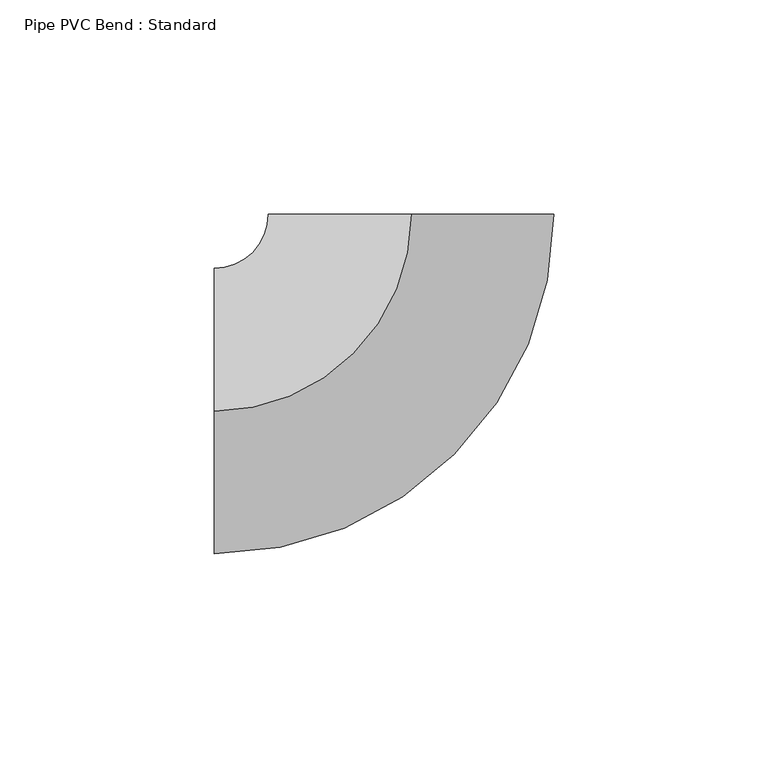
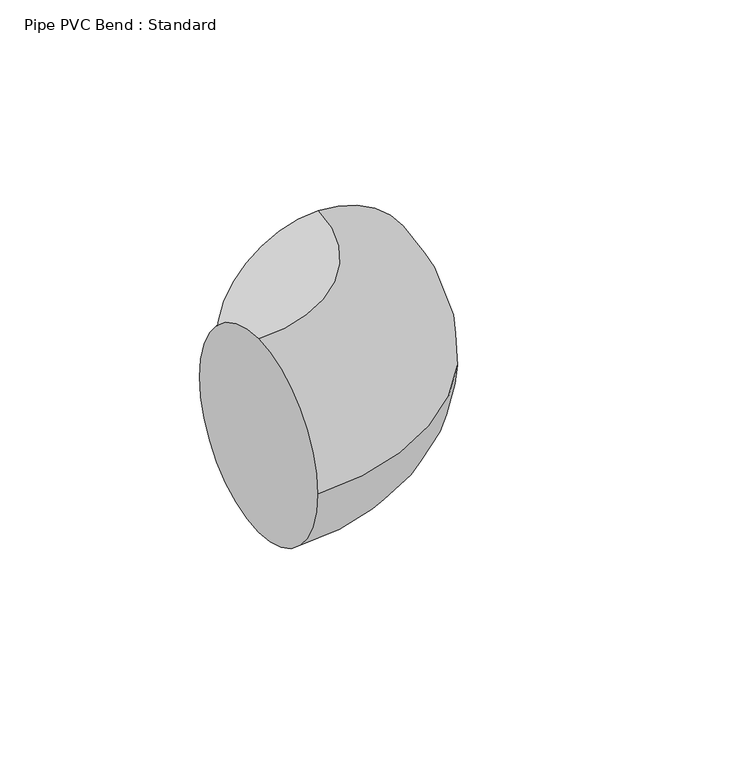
"""IFC4 building model written with IfcOpenShell, lengths in millimetres: pipe fitting geometry, Pipe PVC Bend : Standard."""

import ifcopenshell
import ifcopenshell.guid

model = None  # the IFC model being written
_history = None  # IfcOwnerHistory: only IFC2X3 demands one
_inside = {}  # id of a spatial element -> (the spatial element, [elements in it])
_under = {}  # id of a project, library or spatial element -> (it, [spatial elements below it])
_declared = {}  # id of a project -> (the project, [libraries it declares])
_typed = {}  # id of a type object -> (the type object, [elements of that type])
_made_of = {}  # id of a material, layer set ... -> (it, [elements and type objects made of it])


def new_model(schema):
    """Start an empty IFC model of exactly this schema.

    Asked for "IFC4X3", IfcOpenShell would pick the latest addendum, in which some entities
    have other attributes; the version numbers below select the first issue.
    IFC2X3 requires an IfcOwnerHistory on every rooted entity: one is made here for all.
    """
    global model, _history
    if schema == "IFC4X3":
        model = ifcopenshell.file(schema_version=(4, 3, 0, 0))
    else:
        model = ifcopenshell.file(schema=schema)
    _inside.clear()
    _under.clear()
    _declared.clear()
    _typed.clear()
    _made_of.clear()
    _history = None
    if model.schema == "IFC2X3":
        org = make("IfcOrganization", Name="unknown")
        user = make(
            "IfcPersonAndOrganization",
            ThePerson=make("IfcPerson", FamilyName="unknown"),
            TheOrganization=org,
        )
        app = make(
            "IfcApplication",
            ApplicationDeveloper=org,
            Version="unknown",
            ApplicationFullName="unknown",
            ApplicationIdentifier="unknown",
        )
        _history = make(
            "IfcOwnerHistory",
            OwningUser=user,
            OwningApplication=app,
            ChangeAction="ADDED",
            CreationDate=0,
        )
    return model


def make(cls, **values):
    """One entity of the class cls with the attributes given. An attribute that is None is left unset."""
    return model.create_entity(
        cls, **{name: value for name, value in values.items() if value is not None}
    )


def rooted(cls, **values):
    """An entity with a GlobalId (a new one), such as an element, a storey or a relation."""
    return make(cls, GlobalId=ifcopenshell.guid.new(), OwnerHistory=_history, **values)


def si_unit(unit_type, name, prefix=None):
    """IfcSIUnit, for example si_unit("LENGTHUNIT", "METRE", prefix="MILLI")."""
    return make("IfcSIUnit", UnitType=unit_type, Prefix=prefix, Name=name)


def assignment(units):
    """IfcUnitAssignment: the units of a project."""
    return None if units is None else make("IfcUnitAssignment", Units=units)


def point(xyz):
    """IfcCartesianPoint."""
    return None if xyz is None else make("IfcCartesianPoint", Coordinates=xyz)


def direction(xyz):
    """IfcDirection."""
    return None if xyz is None else make("IfcDirection", DirectionRatios=xyz)


def frame(location, z_axis=None, x_axis=None):
    """IfcAxis2Placement3D, a coordinate frame: its origin and axes. An axis left out is left unset."""
    return make(
        "IfcAxis2Placement3D",
        Location=point(location),
        Axis=direction(z_axis),
        RefDirection=direction(x_axis),
    )


def origin():
    """The frame at (0, 0, 0) with its axes left unset."""
    return frame((0.0, 0.0, 0.0))


def place(relative_to, where):
    """IfcLocalPlacement: puts the frame where relative to a parent placement (None: the world)."""
    return make(
        "IfcLocalPlacement", PlacementRelTo=relative_to, RelativePlacement=where
    )


def context(
    kind, dimensions, precision=None, world=None, true_north=None, identifier=None
):
    """IfcGeometricRepresentationContext, for example the 3D "Model" context."""
    return make(
        "IfcGeometricRepresentationContext",
        ContextIdentifier=identifier,
        ContextType=kind,
        CoordinateSpaceDimension=dimensions,
        Precision=precision,
        WorldCoordinateSystem=world,
        TrueNorth=true_north,
    )


def project(units=None, contexts=None):
    """IfcProject with its units and contexts."""
    return rooted(
        "IfcProject",
        Name="project",
        RepresentationContexts=contexts,
        UnitsInContext=assignment(units),
    )


def spatial(cls, under=None, at=None, **own):
    """A site, building, storey or space (cls), placed at a placement, below another one or the project."""
    s = rooted(cls, ObjectPlacement=at, **own)
    if under is not None:
        _under.setdefault(under.id(), (under, []))[1].append(s)
    return s


def circle_curve(where, radius):
    """IfcCircle in the frame where."""
    return make("IfcCircle", Position=where, Radius=radius)


def ellipse_curve(where, semi_axis1, semi_axis2):
    """IfcEllipse in the frame where."""
    return make(
        "IfcEllipse", Position=where, SemiAxis1=semi_axis1, SemiAxis2=semi_axis2
    )


def trimmed(basis, trim1, trim2, sense, master):
    """IfcTrimmedCurve: the piece of a basis curve between two trims."""
    return make(
        "IfcTrimmedCurve",
        BasisCurve=basis,
        Trim1=trim1,
        Trim2=trim2,
        SenseAgreement=sense,
        MasterRepresentation=master,
    )


def shape(context_of_items, identifier, shape_type, items):
    """IfcShapeRepresentation: the items that make up one representation, for example the "Body"."""
    return make(
        "IfcShapeRepresentation",
        ContextOfItems=context_of_items,
        RepresentationIdentifier=identifier,
        RepresentationType=shape_type,
        Items=items,
    )


def source(mapping_origin, context_of_items, identifier, shape_type, items):
    """IfcRepresentationMap: a shape defined once, which mapped items show again and again."""
    return make(
        "IfcRepresentationMap",
        MappingOrigin=mapping_origin,
        MappedRepresentation=shape(context_of_items, identifier, shape_type, items),
    )


def transform(
    local_origin,
    x_axis=None,
    y_axis=None,
    z_axis=None,
    scale=None,
    scale2=None,
    scale3=None,
    uniform=True,
):
    """IfcCartesianTransformationOperator3D, or its non-uniform kind. x_axis, y_axis, z_axis: its Axis1, 2, 3."""
    if uniform:
        return make(
            "IfcCartesianTransformationOperator3D",
            Axis1=direction(x_axis),
            Axis2=direction(y_axis),
            LocalOrigin=point(local_origin),
            Scale=scale,
            Axis3=direction(z_axis),
        )
    return make(
        "IfcCartesianTransformationOperator3DnonUniform",
        Axis1=direction(x_axis),
        Axis2=direction(y_axis),
        LocalOrigin=point(local_origin),
        Scale=scale,
        Axis3=direction(z_axis),
        Scale2=scale2,
        Scale3=scale3,
    )


def mapped(mapping_source, mapping_target):
    """IfcMappedItem: shows the shape of a source again, moved by a transform."""
    return make(
        "IfcMappedItem", MappingSource=mapping_source, MappingTarget=mapping_target
    )


def made_of(thing, what):
    """Note that an element or type object is made of a material, layer set ...; save() writes the relation."""
    if what is not None:
        _made_of.setdefault(what.id(), (what, []))[1].append(thing)
    return thing


def element(
    cls,
    number,
    at=None,
    inside=None,
    cuts=None,
    type_object=None,
    material=None,
    context=None,
    identifier="Body",
    shape_type=None,
    held_by="IfcProductDefinitionShape",
    body=None,
    shapes=None,
    **own,
):
    """One element of the class cls, such as IfcWall. Its Tag is "e" and its number.

    at: its placement. inside: the storey or other place that contains it. cuts: it is an
    opening in that element (IfcRelVoidsElement). A single representation is given by context,
    identifier, shape_type and body (its items); several are given by shapes. held_by: the class
    of the entity that holds the representations. save() writes the other relations.
    """
    e = rooted(cls, Tag="e%d" % number, ObjectPlacement=at, **own)
    if body is not None:
        shapes = [shape(context, identifier, shape_type, body)]
    if shapes is not None:
        e.Representation = make(held_by, Representations=shapes)
    if inside is not None:
        _inside.setdefault(inside.id(), (inside, []))[1].append(e)
    if cuts is not None:
        rooted(
            "IfcRelVoidsElement", RelatingBuildingElement=cuts, RelatedOpeningElement=e
        )
    if type_object is not None:
        _typed.setdefault(type_object.id(), (type_object, []))[1].append(e)
    return made_of(e, material)


def aggregate(whole, parts):
    """IfcRelAggregates: a whole, such as a stair, and the parts it consists of."""
    return rooted("IfcRelAggregates", RelatingObject=whole, RelatedObjects=parts)


def save(model, path):
    """Write the relations noted so far, then the file.

    IfcRelAggregates (storeys below a building ...), IfcRelContainedInSpatialStructure (elements
    in a storey), IfcRelDefinesByType, IfcRelAssociatesMaterial and IfcRelDeclares: one each for
    every whole, place, type object, material and project.
    """
    for whole, parts in _under.values():
        aggregate(whole, parts)
    for where, things in _inside.values():
        rooted(
            "IfcRelContainedInSpatialStructure",
            RelatedElements=things,
            RelatingStructure=where,
        )
    for kind, things in _typed.values():
        rooted("IfcRelDefinesByType", RelatedObjects=things, RelatingType=kind)
    for what, things in _made_of.values():
        rooted("IfcRelAssociatesMaterial", RelatedObjects=things, RelatingMaterial=what)
    for by, libraries in _declared.values():
        rooted("IfcRelDeclares", RelatingContext=by, RelatedDefinitions=libraries)
    model.write(path)


def plane_surface(at):
    """IfcPlane: the flat surface through the origin of the frame at, square to its z axis."""
    return make("IfcPlane", Position=at)


def revolved_surface(curve, axis_point, axis_direction):
    """IfcSurfaceOfRevolution: the curve turned about the line through axis_point along axis_direction."""
    return make(
        "IfcSurfaceOfRevolution",
        SweptCurve=make("IfcArbitraryOpenProfileDef", ProfileType="CURVE", Curve=curve),
        AxisPosition=make("IfcAxis1Placement", Location=point(axis_point), Axis=direction(axis_direction)),
    )


def advanced_brep(points, edges, surfaces, faces):
    """IfcAdvancedBrep: a solid bounded by faces that lie on surfaces and meet in shared edges.

    An edge is (start, end): straight between two places in points (the first is 0);
    or (start, end, curve); or (start, end, curve, False) where it runs against its curve.
    A face is (place in surfaces, loops), or (place, loops, False) where it looks against
    its surface's normal. A loop lists edges by number (the first is 1), with a minus sign
    where the edge is run from its end to its start. The first loop is the outer one.
    """
    corners = [point(p) for p in points]
    vertices = [make("IfcVertexPoint", VertexGeometry=c) for c in corners]
    made = []
    for start, end, *more in edges:
        made.append(
            make(
                "IfcEdgeCurve",
                EdgeStart=vertices[start],
                EdgeEnd=vertices[end],
                EdgeGeometry=more[0] if more else make("IfcPolyline", Points=[corners[start], corners[end]]),
                SameSense=more[1] if len(more) > 1 else True,
            )
        )
    hull = []
    for where, loops, *sense in faces:
        bounds = []
        for j, loop in enumerate(loops):
            ring = [make("IfcOrientedEdge", EdgeElement=made[abs(k) - 1], Orientation=k > 0) for k in loop]
            bounds.append(
                make(
                    "IfcFaceOuterBound" if j == 0 else "IfcFaceBound",
                    Bound=make("IfcEdgeLoop", EdgeList=ring),
                    Orientation=True,
                )
            )
        hull.append(make("IfcAdvancedFace", Bounds=bounds, FaceSurface=surfaces[where], SameSense=sense[0] if sense else True))
    return make("IfcAdvancedBrep", Outer=make("IfcClosedShell", CfsFaces=hull))


def pipe_pvc_bend_standard_82aeff72(model_context):
    return source(origin(), model_context, "Body", "AdvancedBrep", [
        advanced_brep(
        [(-46.0375, 0.0, 33.3375), (-46.0375, 33.3375, 0.0), (-46.0375, 0.0, -33.3375), (-46.0375, -33.3375, 0.0), (0.0, 46.0375, 33.3375), (33.3375, 46.0375, 0.0), (0.0, 46.0375, -33.3375), (-33.3375, 46.0375, 0.0)],
        [
            (0, 1, circle_curve(frame((-46.0375, 0.0, 0.0), z_axis=(-1.0, 0.0, 0.0), x_axis=(0.0, 1.0, 0.0)), 33.3375)),
            (1, 2, circle_curve(frame((-46.0375, 0.0, 0.0), z_axis=(-1.0, 0.0, 0.0), x_axis=(0.0, 1.0, 0.0)), 33.3375)),
            (2, 3, circle_curve(frame((-46.0375, 0.0, 0.0), z_axis=(-1.0, 0.0, 0.0), x_axis=(0.0, 1.0, 0.0)), 33.3375)),
            (3, 0, circle_curve(frame((-46.0375, 0.0, 0.0), z_axis=(-1.0, 0.0, 0.0), x_axis=(0.0, 1.0, 0.0)), 33.3375)),
            (4, 5, circle_curve(frame((0.0, 46.0375, 0.0), z_axis=(0.0, 1.0, 0.0), x_axis=(-1.0, 0.0, 0.0)), 33.3375)),
            (5, 6, circle_curve(frame((0.0, 46.0375, 0.0), z_axis=(0.0, 1.0, 0.0), x_axis=(-1.0, 0.0, 0.0)), 33.3375)),
            (6, 7, circle_curve(frame((0.0, 46.0375, 0.0), z_axis=(0.0, 1.0, 0.0), x_axis=(-1.0, 0.0, 0.0)), 33.3375)),
            (7, 4, circle_curve(frame((0.0, 46.0375, 0.0), z_axis=(0.0, 1.0, 0.0), x_axis=(-1.0, 0.0, 0.0)), 33.3375)),
            (7, 1, circle_curve(frame((-46.0375, 46.0375, 0.0), z_axis=(0.0, 0.0, -1.0), x_axis=(0.0, -1.0, 0.0)), 12.7)),
            (0, 4, circle_curve(frame((-46.0375, 46.0375, 33.3375), z_axis=(0.0, 0.0, 1.0), x_axis=(0.0, -1.0, 0.0)), 46.0375)),
            (6, 2, circle_curve(frame((-46.0375, 46.0375, -33.3375), z_axis=(0.0, 0.0, -1.0), x_axis=(0.0, -1.0, 0.0)), 46.0375)),
            (5, 3, circle_curve(frame((-46.0375, 46.0375, 0.0), z_axis=(0.0, 0.0, -1.0), x_axis=(0.0, -1.0, 0.0)), 79.375)),
        ],
        [
            plane_surface(frame((-46.0375, 0.0, 0.0), z_axis=(-1.0, 0.0, 0.0), x_axis=(0.0, 0.0, 1.0))),
            plane_surface(frame((0.0, 46.0375, 0.0), z_axis=(0.0, 1.0, 0.0), x_axis=(0.0, 0.0, 1.0))),
            revolved_surface(trimmed(ellipse_curve(frame((-46.0375, 0.0, 0.0), z_axis=(-1.0, 0.0, 0.0), x_axis=(0.0, 1.0, 0.0)), 33.3375, 33.3375), [point((-46.0375, 0.0, 33.3375))], [point((-46.0375, 33.3375, 0.0))], True, "CARTESIAN"), (-46.0375, 46.0375, 0.0), (0.0, 0.0, 1.0)),
            revolved_surface(trimmed(ellipse_curve(frame((-46.0375, 0.0, 0.0), z_axis=(-1.0, 0.0, 0.0), x_axis=(0.0, 1.0, 0.0)), 33.3375, 33.3375), [point((-46.0375, 33.3375, 0.0))], [point((-46.0375, 0.0, -33.3375))], True, "CARTESIAN"), (-46.0375, 46.0375, 0.0), (0.0, 0.0, 1.0)),
            revolved_surface(trimmed(ellipse_curve(frame((-46.0375, 0.0, 0.0), z_axis=(-1.0, 0.0, 0.0), x_axis=(0.0, 1.0, 0.0)), 33.3375, 33.3375), [point((-46.0375, 0.0, -33.3375))], [point((-46.0375, -33.3375, 0.0))], True, "CARTESIAN"), (-46.0375, 46.0375, 0.0), (0.0, 0.0, 1.0)),
            revolved_surface(trimmed(ellipse_curve(frame((-46.0375, 0.0, 0.0), z_axis=(-1.0, 0.0, 0.0), x_axis=(0.0, 1.0, 0.0)), 33.3375, 33.3375), [point((-46.0375, -33.3375, 0.0))], [point((-46.0375, 0.0, 33.3375))], True, "CARTESIAN"), (-46.0375, 46.0375, 0.0), (0.0, 0.0, 1.0)),
        ],
        [
            (0, [[1, 2, 3, 4]]),
            (1, [[5, 6, 7, 8]]),
            (2, [[9, -1, 10, -8]]),
            (3, [[11, -2, -9, -7]]),
            (4, [[12, -3, -11, -6]]),
            (5, [[-10, -4, -12, -5]]),
        ],
    ),
        advanced_brep(
        [(-46.0375, 0.0, 33.3375), (-46.0375, 33.3375, 0.0), (-46.0375, 0.0, -33.3375), (-46.0375, -33.3375, 0.0), (0.0, 46.0375, 33.3375), (33.3375, 46.0375, 0.0), (0.0, 46.0375, -33.3375), (-33.3375, 46.0375, 0.0)],
        [
            (0, 1, circle_curve(frame((-46.0375, 0.0, 0.0), z_axis=(-1.0, 0.0, 0.0), x_axis=(0.0, 1.0, 0.0)), 33.3375)),
            (1, 2, circle_curve(frame((-46.0375, 0.0, 0.0), z_axis=(-1.0, 0.0, 0.0), x_axis=(0.0, 1.0, 0.0)), 33.3375)),
            (2, 3, circle_curve(frame((-46.0375, 0.0, 0.0), z_axis=(-1.0, 0.0, 0.0), x_axis=(0.0, 1.0, 0.0)), 33.3375)),
            (3, 0, circle_curve(frame((-46.0375, 0.0, 0.0), z_axis=(-1.0, 0.0, 0.0), x_axis=(0.0, 1.0, 0.0)), 33.3375)),
            (4, 5, circle_curve(frame((0.0, 46.0375, 0.0), z_axis=(0.0, 1.0, 0.0), x_axis=(-1.0, 0.0, 0.0)), 33.3375)),
            (5, 6, circle_curve(frame((0.0, 46.0375, 0.0), z_axis=(0.0, 1.0, 0.0), x_axis=(-1.0, 0.0, 0.0)), 33.3375)),
            (6, 7, circle_curve(frame((0.0, 46.0375, 0.0), z_axis=(0.0, 1.0, 0.0), x_axis=(-1.0, 0.0, 0.0)), 33.3375)),
            (7, 4, circle_curve(frame((0.0, 46.0375, 0.0), z_axis=(0.0, 1.0, 0.0), x_axis=(-1.0, 0.0, 0.0)), 33.3375)),
            (7, 1, circle_curve(frame((-46.0375, 46.0375, 0.0), z_axis=(0.0, 0.0, -1.0), x_axis=(0.0, -1.0, 0.0)), 12.7)),
            (0, 4, circle_curve(frame((-46.0375, 46.0375, 33.3375), z_axis=(0.0, 0.0, 1.0), x_axis=(0.0, -1.0, 0.0)), 46.0375)),
            (6, 2, circle_curve(frame((-46.0375, 46.0375, -33.3375), z_axis=(0.0, 0.0, -1.0), x_axis=(0.0, -1.0, 0.0)), 46.0375)),
            (5, 3, circle_curve(frame((-46.0375, 46.0375, 0.0), z_axis=(0.0, 0.0, -1.0), x_axis=(0.0, -1.0, 0.0)), 79.375)),
        ],
        [
            plane_surface(frame((-46.0375, 0.0, 0.0), z_axis=(-1.0, 0.0, 0.0), x_axis=(0.0, 0.0, 1.0))),
            plane_surface(frame((0.0, 46.0375, 0.0), z_axis=(0.0, 1.0, 0.0), x_axis=(0.0, 0.0, 1.0))),
            revolved_surface(trimmed(ellipse_curve(frame((-46.0375, 0.0, 0.0), z_axis=(-1.0, 0.0, 0.0), x_axis=(0.0, 1.0, 0.0)), 33.3375, 33.3375), [point((-46.0375, 0.0, 33.3375))], [point((-46.0375, 33.3375, 0.0))], True, "CARTESIAN"), (-46.0375, 46.0375, 0.0), (0.0, 0.0, 1.0)),
            revolved_surface(trimmed(ellipse_curve(frame((-46.0375, 0.0, 0.0), z_axis=(-1.0, 0.0, 0.0), x_axis=(0.0, 1.0, 0.0)), 33.3375, 33.3375), [point((-46.0375, 33.3375, 0.0))], [point((-46.0375, 0.0, -33.3375))], True, "CARTESIAN"), (-46.0375, 46.0375, 0.0), (0.0, 0.0, 1.0)),
            revolved_surface(trimmed(ellipse_curve(frame((-46.0375, 0.0, 0.0), z_axis=(-1.0, 0.0, 0.0), x_axis=(0.0, 1.0, 0.0)), 33.3375, 33.3375), [point((-46.0375, 0.0, -33.3375))], [point((-46.0375, -33.3375, 0.0))], True, "CARTESIAN"), (-46.0375, 46.0375, 0.0), (0.0, 0.0, 1.0)),
            revolved_surface(trimmed(ellipse_curve(frame((-46.0375, 0.0, 0.0), z_axis=(-1.0, 0.0, 0.0), x_axis=(0.0, 1.0, 0.0)), 33.3375, 33.3375), [point((-46.0375, -33.3375, 0.0))], [point((-46.0375, 0.0, 33.3375))], True, "CARTESIAN"), (-46.0375, 46.0375, 0.0), (0.0, 0.0, 1.0)),
        ],
        [
            (0, [[1, 2, 3, 4]]),
            (1, [[5, 6, 7, 8]]),
            (2, [[9, -1, 10, -8]]),
            (3, [[11, -2, -9, -7]]),
            (4, [[12, -3, -11, -6]]),
            (5, [[-10, -4, -12, -5]]),
        ],
    ),
    ])


if __name__ == "__main__":
    model = new_model("IFC4")
    model_context = context("Model", 3, world=origin())
    ifc_project = project(units=[si_unit("LENGTHUNIT", "METRE", prefix="MILLI")], contexts=[model_context])
    site = spatial("IfcSite", under=ifc_project)
    building = spatial("IfcBuilding", under=site)
    placement = place(None, origin())
    pipe_pvc_bend_standard_shape = pipe_pvc_bend_standard_82aeff72(model_context)
    element("IfcPipeFitting", 1, ObjectType="Pipe PVC Bend : Standard", at=placement, inside=building, context=model_context, shape_type="MappedRepresentation", body=[
        mapped(pipe_pvc_bend_standard_shape, transform((0.0, 0.0, 0.0), x_axis=(1.0, 0.0, 0.0), y_axis=(0.0, 1.0, 0.0), z_axis=(0.0, 0.0, 1.0))),
    ])
    save(model, "model.ifc")
